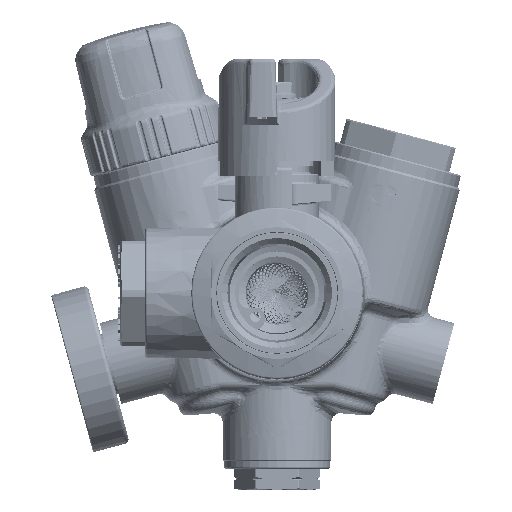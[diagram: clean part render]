
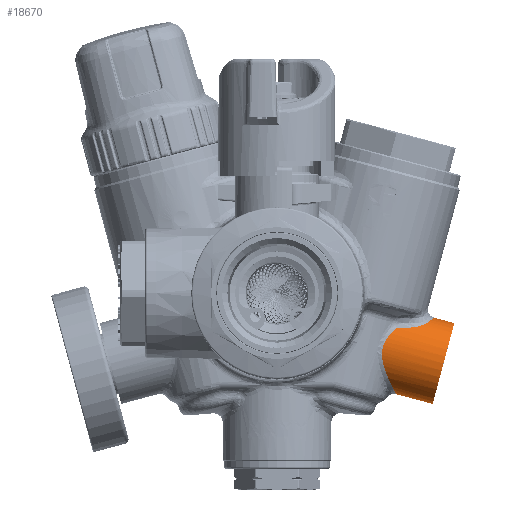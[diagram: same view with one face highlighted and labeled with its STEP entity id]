
A CAD part, top view. The second image highlights one B-rep face of the part: STEP entity #18670.
In plain terms, the highlighted cylindrical face has radius 10 mm (diameter 20 mm), a partial arc.
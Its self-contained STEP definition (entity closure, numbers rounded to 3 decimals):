
#4073=CARTESIAN_POINT('',(55.035,1.361,
0.));
#4109=CARTESIAN_POINT('',(45.872,-16.889,
0.));
#4127=CARTESIAN_POINT('',(57.276,-9.592,0.));
#4128=DIRECTION('',(-0.966,0.259,0.));
#4129=DIRECTION('',(-0.259,-0.966,0.));
#4130=AXIS2_PLACEMENT_3D('',#4127,#4128,#4129);
#4132=DIRECTION('',(-0.966,0.259,0.));
#4133=VECTOR('',#4132,9.127);
#4134=CARTESIAN_POINT('',(54.688,-19.252,0.));
#4135=LINE('',#4134,#4133);
#4136=CARTESIAN_POINT('',(45.45,-15.914,3.997));
#4137=CARTESIAN_POINT('',(45.519,-16.045,3.747));
#4138=CARTESIAN_POINT('',(45.628,-16.269,3.259));
#4139=CARTESIAN_POINT('',(45.731,-16.507,2.586));
#4140=CARTESIAN_POINT('',(45.796,-16.672,1.971));
#4141=CARTESIAN_POINT('',(45.835,-16.781,1.412));
#4142=CARTESIAN_POINT('',(45.858,-16.848,
0.902));
#4143=CARTESIAN_POINT('',(45.87,-16.883,
0.435));
#4144=CARTESIAN_POINT('',(45.872,-16.889,
0.141));
#4145=CARTESIAN_POINT('',(45.872,-16.889,
0.));
#4147=CARTESIAN_POINT('',(46.099,-1.123,8.488));
#4148=CARTESIAN_POINT('',(45.909,-1.285,8.616));
#4149=CARTESIAN_POINT('',(45.542,-1.608,8.849));
#4150=CARTESIAN_POINT('',(45.046,-2.085,9.134));
#4151=CARTESIAN_POINT('',(44.591,-2.565,9.372));
#4152=CARTESIAN_POINT('',(44.172,-3.058,9.571));
#4153=CARTESIAN_POINT('',(43.786,-3.576,9.734));
#4154=CARTESIAN_POINT('',(43.437,-4.127,9.862));
#4155=CARTESIAN_POINT('',(43.137,-4.707,9.951));
#4156=CARTESIAN_POINT('',(42.895,-5.315,9.999));
#4157=CARTESIAN_POINT('',(42.718,-5.944,10.004));
#4158=CARTESIAN_POINT('',(42.606,-6.594,9.967));
#4159=CARTESIAN_POINT('',(42.56,-7.261,9.885));
#4160=CARTESIAN_POINT('',(42.575,-7.925,9.763));
#4161=CARTESIAN_POINT('',(42.642,-8.581,9.604));
#4162=CARTESIAN_POINT('',(42.761,-9.27,9.397));
#4163=CARTESIAN_POINT('',(42.944,-10.039,9.114));
#4164=CARTESIAN_POINT('',(43.195,-10.875,8.741));
#4165=CARTESIAN_POINT('',(43.502,-11.736,8.277));
#4166=CARTESIAN_POINT('',(43.849,-12.596,7.722));
#4167=CARTESIAN_POINT('',(44.219,-13.438,7.072));
#4168=CARTESIAN_POINT('',(44.616,-14.279,6.287));
#4169=CARTESIAN_POINT('',(45.037,-15.125,5.302));
#4170=CARTESIAN_POINT('',(45.319,-15.667,4.466));
#4171=CARTESIAN_POINT('',(45.45,-15.914,3.997));
#4173=CARTESIAN_POINT('',(49.415,-1.015,7.806));
#4174=CARTESIAN_POINT('',(49.063,-1.032,7.892));
#4175=CARTESIAN_POINT('',(48.348,-1.063,8.057));
#4176=CARTESIAN_POINT('',(47.262,-1.1,8.281));
#4177=CARTESIAN_POINT('',(46.492,-1.117,8.421));
#4178=CARTESIAN_POINT('',(46.099,-1.123,8.488));
#4180=CARTESIAN_POINT('',(49.415,-1.015,7.806));
#4181=CARTESIAN_POINT('',(49.878,-0.993,
7.693));
#4182=CARTESIAN_POINT('',(50.748,-0.884,
7.416));
#4183=CARTESIAN_POINT('',(51.893,-0.578,
6.839));
#4184=CARTESIAN_POINT('',(52.848,-0.183,
6.105));
#4185=CARTESIAN_POINT('',(53.624,0.255,5.202));
#4186=CARTESIAN_POINT('',(54.027,0.552,4.466));
#4187=CARTESIAN_POINT('',(54.196,0.692,4.065));
#4189=CARTESIAN_POINT('',(55.035,1.361,
0.));
#4190=CARTESIAN_POINT('',(55.035,1.361,0.451));
#4191=CARTESIAN_POINT('',(54.973,1.313,1.362));
#4192=CARTESIAN_POINT('',(54.701,1.1,2.704));
#4193=CARTESIAN_POINT('',(54.386,0.848,3.615));
#4194=CARTESIAN_POINT('',(54.196,0.692,4.065));
#4196=DIRECTION('',(-0.966,0.259,0.));
#4197=VECTOR('',#4196,5.);
#4198=CARTESIAN_POINT('',(59.865,0.067,0.));
#4199=LINE('',#4198,#4197);
#12202=VERTEX_POINT('',#4109);
#12204=VERTEX_POINT('',#4136);
#12206=VERTEX_POINT('',#4147);
#12279=VERTEX_POINT('',#4073);
#12283=VERTEX_POINT('',#4194);
#12383=CARTESIAN_POINT('',(49.415,-1.015,
7.806));
#12384=VERTEX_POINT('',#12383);
#12962=CARTESIAN_POINT('',(59.865,0.067,0.));
#12963=CARTESIAN_POINT('',(54.688,-19.252,0.));
#12964=VERTEX_POINT('',#12962);
#12965=VERTEX_POINT('',#12963);
#18651=CARTESIAN_POINT('',(67.1,-12.225,0.));
#18652=DIRECTION('',(-0.966,0.259,0.));
#18653=DIRECTION('',(0.259,0.966,0.));
#18654=AXIS2_PLACEMENT_3D('',#18651,#18652,#18653);
#18655=CYLINDRICAL_SURFACE('',#18654,10.);
#18656=ORIENTED_EDGE('',*,*,#18640,.F.);
#18657=ORIENTED_EDGE('',*,*,#18629,.T.);
#18659=ORIENTED_EDGE('',*,*,#18658,.F.);
#18661=ORIENTED_EDGE('',*,*,#18660,.F.);
#18663=ORIENTED_EDGE('',*,*,#18662,.F.);
#18665=ORIENTED_EDGE('',*,*,#18664,.T.);
#18666=ORIENTED_EDGE('',*,*,#18570,.F.);
#18667=ORIENTED_EDGE('',*,*,#18618,.F.);
#18668=EDGE_LOOP('',(#18656,#18657,#18659,#18661,#18663,#18665,#18666,#18667));
#18669=FACE_OUTER_BOUND('',#18668,.F.);
#18670=ADVANCED_FACE('',(#18669),#18655,.T.);
#4131=CIRCLE('',#4130,10.);
#4146=B_SPLINE_CURVE_WITH_KNOTS('',3,(#4136,#4137,#4138,#4139,#4140,#4141,#4142,
#4143,#4144,#4145),.UNSPECIFIED.,.F.,.F.,(4,1,1,1,1,1,1,4),(0.,
0.143,0.286,0.429,0.571,
0.714,0.857,1.),.UNSPECIFIED.);
#4172=B_SPLINE_CURVE_WITH_KNOTS('',3,(#4147,#4148,#4149,#4150,#4151,#4152,#4153,
#4154,#4155,#4156,#4157,#4158,#4159,#4160,#4161,#4162,#4163,#4164,#4165,#4166,
#4167,#4168,#4169,#4170,#4171),.UNSPECIFIED.,.F.,.F.,(4,1,1,1,1,1,1,1,1,1,1,1,1,
1,1,1,1,1,1,1,1,1,4),(0.,0.045,0.091,
0.136,0.182,0.227,0.273,
0.318,0.364,0.409,0.455,0.5,
0.545,0.591,0.636,0.682,
0.727,0.773,0.818,0.864,
0.909,0.955,1.),.UNSPECIFIED.);
#4179=B_SPLINE_CURVE_WITH_KNOTS('',3,(#4173,#4174,#4175,#4176,#4177,#4178),
.UNSPECIFIED.,.F.,.F.,(4,1,1,4),(0.,0.333,0.667,1.),
.UNSPECIFIED.);
#4188=B_SPLINE_CURVE_WITH_KNOTS('',3,(#4180,#4181,#4182,#4183,#4184,#4185,#4186,
#4187),.UNSPECIFIED.,.F.,.F.,(4,1,1,1,1,4),(0.,0.2,0.4,0.6,0.8,1.),
.UNSPECIFIED.);
#4195=B_SPLINE_CURVE_WITH_KNOTS('',3,(#4189,#4190,#4191,#4192,#4193,#4194),
.UNSPECIFIED.,.F.,.F.,(4,1,1,4),(0.,0.333,0.667,1.),
.UNSPECIFIED.);
#18570=EDGE_CURVE('',#12279,#12283,#4195,.T.);
#18618=EDGE_CURVE('',#12964,#12279,#4199,.T.);
#18629=EDGE_CURVE('',#12965,#12202,#4135,.T.);
#18640=EDGE_CURVE('',#12965,#12964,#4131,.T.);
#18658=EDGE_CURVE('',#12204,#12202,#4146,.T.);
#18660=EDGE_CURVE('',#12206,#12204,#4172,.T.);
#18662=EDGE_CURVE('',#12384,#12206,#4179,.T.);
#18664=EDGE_CURVE('',#12384,#12283,#4188,.T.);
